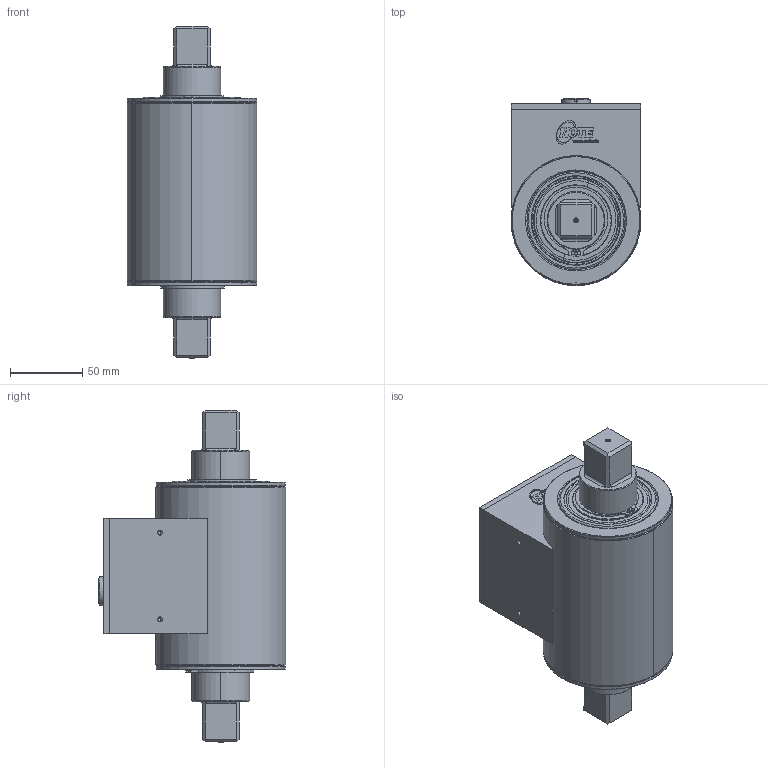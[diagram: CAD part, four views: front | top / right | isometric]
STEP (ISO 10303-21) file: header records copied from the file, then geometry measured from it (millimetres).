
FILE_DESCRIPTION (( 'STEP AP214' ), '1' );
FILE_NAME ('400007-ATS023_Sensor_Mb_1000-2000Nm_Vierkant_ohne_WS_IP65.STEP', '2016-11-29T12:17:02', ( '' ), ( '' ), 'SwSTEP 2.0', 'SolidWorks 2016', '' );
FILE_SCHEMA (( 'AUTOMOTIVE_DESIGN' ));
Length unit declared in the file: millimetre
Products named in the file (30): 999999-ATM175_Rillenkugellager_6008-2RS1_Standard_8; 999999-ATM175_Rillenkugellager_6008-2RS1_Standard_5; 999999-ATE042_Buchse-09-0132-90-12_12Pol_Standard; 999999-ATM175_Rillenkugellager_6008-2RS1_Standard; 999999-ATM175_Rillenkugellager_6008-2RS1_Standard_10; 999999-ATM175_Rillenkugellager_6008-2RS1_Standard_9; 999999-ATM175_Rillenkugellager_6008-2RS1_Standard_7; 999999-ATM175_Rillenkugellager_6008-2RS1_Standard_4; 999999-ATM175_Rillenkugellager_6008-2RS1_Standard_15; 999999-ATM175_Rillenkugellager_6008-2RS1_Standard_16; 999999-ATM175_Rillenkugellager_6008-2RS1_Standard_13; Seegering DIN 471_Circlip DIN 471 - 40 x 1.75; Senkschraube mit Innensechskant DIN 7991_DIN 7991 - M3 x 10 --- 10S; 400007-ATS023_Sensor_Mb_1000-2000Nm_Vierkant_ohne_WS_IP65; 999999-ATM003-Tellerfeder_k_vorgespannt67,5x50,5x0,7_Standard; Passscheibe DIN 988_DIN 988-55x68x0.5; 400007-ATM011_Rohrgehaeuse_Mb-1000-2000Nm; 400007-ATM014_Lagerdeckel_Mb-1000-2000Nm; 999999-ATM175_Rillenkugellager_6008-2RS1_Standard_2; 400007-ATM024_Welle40mm_Mb_1000-2000Nm_Vierkant; 999999-ATM175_Rillenkugellager_6008-2RS1_Standard_12; 999999-ATM175_Rillenkugellager_6008-2RS1_Standard_6; 999999-ATM175_Rillenkugellager_6008-2RS1_Standard_3; 999999-ATM175_Rillenkugellager_6008-2RS1_Standard_14; 400007-ATM017_Elektronikgehaeuse_Mb_1000-2000Nm; 999999-ATM175_Rillenkugellager_6008-2RS1_Standard_11; 999999-ATE072_Folientaster beleuchtet_Standard; Senkschraube mit Innensechskant DIN 7991_DIN 7991 - M4 x 10 --- 10S; 400007-ATM020_Deckel_Elektronikgehäuse_Mb_1000-2000Nm
Assembly tree (41 placements, depth 3):
  400007-ATS023_Sensor_Mb_1000-2000Nm_Vierkant_ohne_WS_IP65
    400007-ATM024_Welle40mm_Mb_1000-2000Nm_Vierkant
    400007-ATM011_Rohrgehaeuse_Mb-1000-2000Nm
    Senkschraube mit Innensechskant DIN 7991_DIN 7991 - M3 x 10 --- 10S  x8
    400007-ATM014_Lagerdeckel_Mb-1000-2000Nm  x2
    400007-ATM017_Elektronikgehaeuse_Mb_1000-2000Nm
    Senkschraube mit Innensechskant DIN 7991_DIN 7991 - M4 x 10 --- 10S  x2
    999999-ATE072_Folientaster beleuchtet_Standard
    999999-ATE042_Buchse-09-0132-90-12_12Pol_Standard
    400007-ATM020_Deckel_Elektronikgehäuse_Mb_1000-2000Nm
    Seegering DIN 471_Circlip DIN 471 - 40 x 1.75  x2
    Passscheibe DIN 988_DIN 988-55x68x0.5  x2
    999999-ATM003-Tellerfeder_k_vorgespannt67,5x50,5x0,7_Standard
    999999-ATM175_Rillenkugellager_6008-2RS1_Standard  x2
      999999-ATM175_Rillenkugellager_6008-2RS1_Standard_5
      999999-ATM175_Rillenkugellager_6008-2RS1_Standard_13
      999999-ATM175_Rillenkugellager_6008-2RS1_Standard_16
      999999-ATM175_Rillenkugellager_6008-2RS1_Standard_12
      999999-ATM175_Rillenkugellager_6008-2RS1_Standard_7
      999999-ATM175_Rillenkugellager_6008-2RS1_Standard_9
      999999-ATM175_Rillenkugellager_6008-2RS1_Standard_4
      999999-ATM175_Rillenkugellager_6008-2RS1_Standard_15
      999999-ATM175_Rillenkugellager_6008-2RS1_Standard_8
      999999-ATM175_Rillenkugellager_6008-2RS1_Standard_10
      999999-ATM175_Rillenkugellager_6008-2RS1_Standard_14
      999999-ATM175_Rillenkugellager_6008-2RS1_Standard
      999999-ATM175_Rillenkugellager_6008-2RS1_Standard_3
      999999-ATM175_Rillenkugellager_6008-2RS1_Standard_2
      999999-ATM175_Rillenkugellager_6008-2RS1_Standard_11
      999999-ATM175_Rillenkugellager_6008-2RS1_Standard_6
Bounding box: 90 x 129.79 x 230 mm (x, y, z)
Surface area: 255332.8 mm2 (no closed solid volume)
Topology: 0 solids, 55 shells, 2146 faces, 4955 edges, 2858 vertices
Faces by surface type: cone 834, cylinder 654, plane 435, bspline 219, torus 4
Entity records: 34259 total; most frequent: CARTESIAN_POINT 9186, DIRECTION 5007, ORIENTED_EDGE 4922, EDGE_CURVE 2461, AXIS2_PLACEMENT_3D 1880, VERTEX_POINT 1557, VECTOR 1247, LINE 1247
